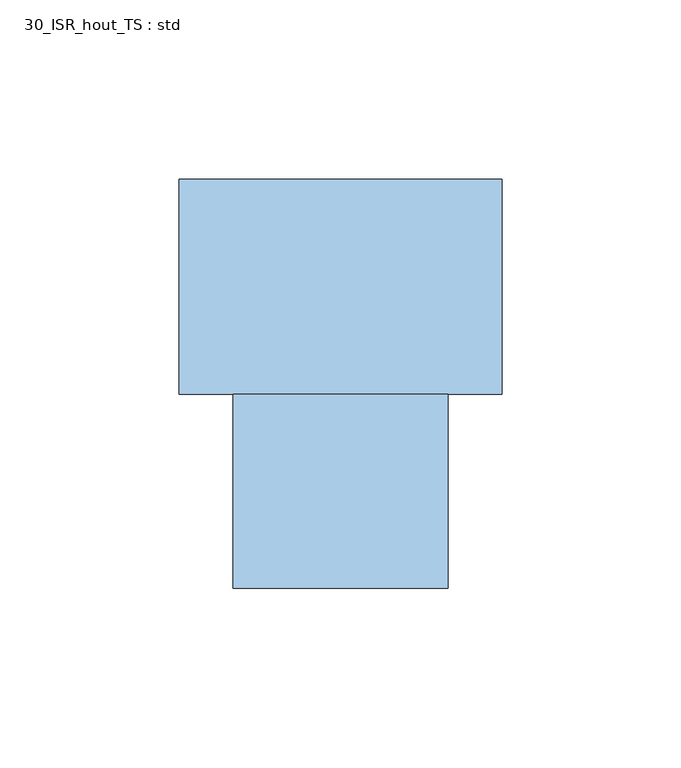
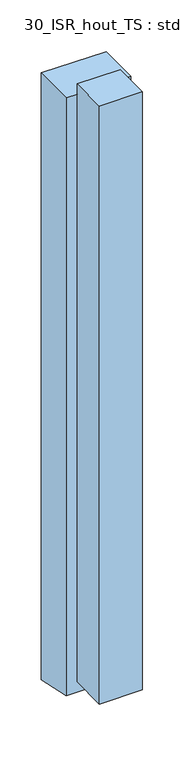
"""IFC4 building model written with IfcOpenShell, lengths in millimetres: window geometry, 30_ISR_hout_TS : std."""

from ifc_helpers import new_model, si_unit, origin, place, context, project, spatial, faceted_brep, source, transform, mapped, element, save


def window_30_isr_hout_ts_std_6483f0b6(model_context):
    return source(origin(), model_context, "Body", "Brep", [
        faceted_brep([(-11.5, 0.0, 940.0), (78.5, 0.0, 940.0), (78.5, 0.0, 46.2466063), (-11.5, 0.0, 46.2466063), (-11.5, -60.0, 940.0), (-11.5, -60.0, 59.0), (78.5, -60.0, 940.0), (78.5, -60.0, 59.0), (3.5, -114.0, 74.0), (63.5, -114.0, 74.0), (63.5, -114.0, 955.0), (3.5, -114.0, 955.0), (63.5, -60.0, 955.0), (3.5, -60.0, 955.0), (3.5, -60.0, 940.0), (63.5, -60.0, 940.0), (63.5, -60.0, 74.0), (3.5, -60.0, 74.0)], [[[0, 1, 2, 3]], [[4, 0, 3, 5]], [[1, 6, 7, 2]], [[8, 9, 10, 11]], [[11, 10, 12, 13]], [[1, 0, 4, 14, 15, 6]], [[3, 2, 7, 5]], [[16, 9, 8, 17]], [[15, 12, 10, 9, 16]], [[14, 17, 8, 11, 13]], [[6, 15, 16, 17, 14, 4, 5, 7]], [[12, 15, 14, 13]]]),
    ])


if __name__ == "__main__":
    model = new_model("IFC4")
    model_context = context("Model", 3, world=origin())
    ifc_project = project(units=[si_unit("LENGTHUNIT", "METRE", prefix="MILLI")], contexts=[model_context])
    site = spatial("IfcSite", under=ifc_project)
    building = spatial("IfcBuilding", under=site)
    placement = place(None, origin())
    window_30_isr_hout_ts_std_shape = window_30_isr_hout_ts_std_6483f0b6(model_context)
    element("IfcWindow", 1, ObjectType="30_ISR_hout_TS : std", at=placement, inside=building, context=model_context, shape_type="MappedRepresentation", body=[
        mapped(window_30_isr_hout_ts_std_shape, transform((0.0, 0.0, 0.0), x_axis=(1.0, 0.0, 0.0), y_axis=(0.0, 1.0, 0.0), z_axis=(0.0, 0.0, 1.0))),
    ])
    save(model, "model.ifc")
